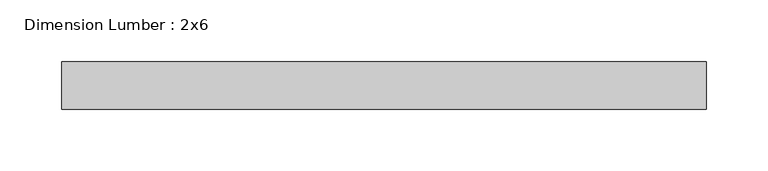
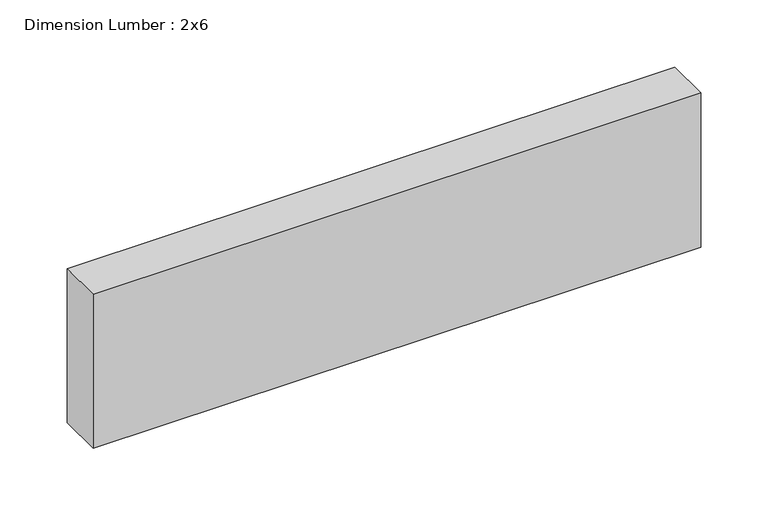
"""IFC4 building model written with IfcOpenShell, lengths in millimetres: beam geometry, Dimension Lumber : 2x6."""

from ifc_helpers import new_model, si_unit, frame, origin, place, context, project, spatial, polyline, outline, extrude, source, transform, mapped, element, save


def dimension_lumber_2x6_ff2e0cc2(model_context):
    return source(origin(), model_context, "Body", "SweptSolid", [
        extrude(outline(polyline([(269.875, 19.05), (269.875, -19.05), (-250.825, -19.05), (-250.825, 19.05), (269.875, 19.05)])), frame((0.0, 0.0, -69.85), z_axis=(0.0, 0.0, 1.0), x_axis=(1.0, 0.0, 0.0)), (0.0, 0.0, 1.0), 139.7),
    ])


if __name__ == "__main__":
    model = new_model("IFC4")
    model_context = context("Model", 3, world=origin())
    ifc_project = project(units=[si_unit("LENGTHUNIT", "METRE", prefix="MILLI")], contexts=[model_context])
    site = spatial("IfcSite", under=ifc_project)
    building = spatial("IfcBuilding", under=site)
    placement = place(None, origin())
    dimension_lumber_2x6_shape = dimension_lumber_2x6_ff2e0cc2(model_context)
    element("IfcBeam", 1, ObjectType="Dimension Lumber : 2x6", at=placement, inside=building, context=model_context, shape_type="MappedRepresentation", body=[
        mapped(dimension_lumber_2x6_shape, transform((0.0, 0.0, 0.0), x_axis=(1.0, 0.0, 0.0), y_axis=(0.0, 1.0, 0.0), z_axis=(0.0, 0.0, 1.0))),
    ])
    save(model, "model.ifc")
